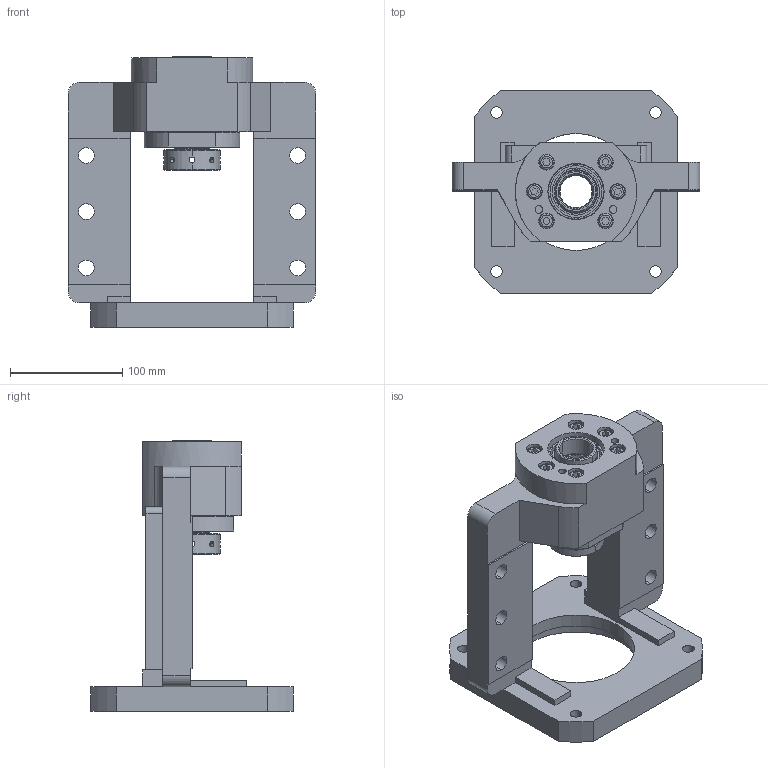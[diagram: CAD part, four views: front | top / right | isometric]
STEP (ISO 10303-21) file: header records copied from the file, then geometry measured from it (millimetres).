
FILE_DESCRIPTION (( 'STEP AP203' ), '1' );
FILE_NAME ('MBCK30L-H²Õ¦X¥ó.STEP', '2025-09-18T03:24:54', ( '' ), ( '' ), 'SwSTEP 2.0', 'SolidWorks 2018', '' );
FILE_SCHEMA (( 'CONFIG_CONTROL_DESIGN' ));
Length unit declared in the file: millimetre
Products named in the file (2): MBCK30L-H組合件
Bounding box: 220 x 180 x 241 mm (x, y, z)
Surface area: 228269.4 mm2 (no closed solid volume)
Topology: 0 solids, 35 shells, 345 faces, 961 edges, 645 vertices
Faces by surface type: cylinder 128, plane 126, cone 58, torus 26, bspline 7
Entity records: 20680 total; most frequent: CARTESIAN_POINT 11700, DIRECTION 1906, ORIENTED_EDGE 1661, EDGE_CURVE 953, AXIS2_PLACEMENT_3D 749, VERTEX_POINT 645, EDGE_LOOP 424, CIRCLE 409
